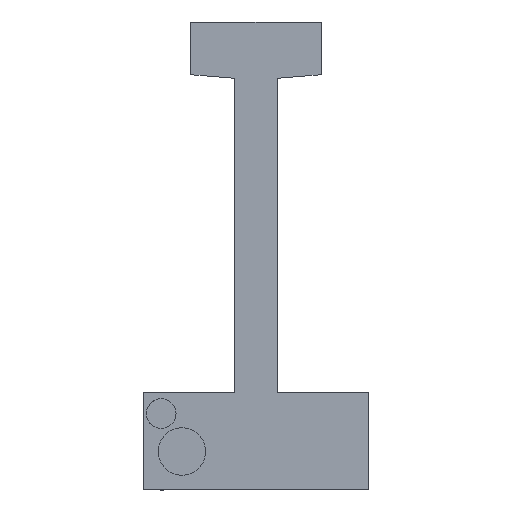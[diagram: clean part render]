
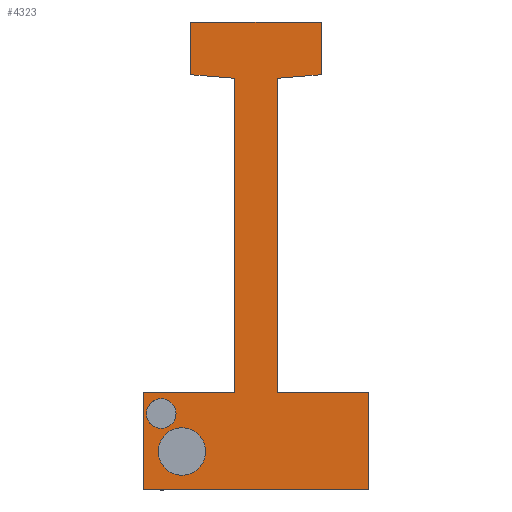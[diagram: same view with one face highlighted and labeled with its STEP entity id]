
A CAD part, front view. The second image highlights one B-rep face of the part: STEP entity #4323.
In plain terms, the highlighted planar face has unit normal (0, -1, 0).
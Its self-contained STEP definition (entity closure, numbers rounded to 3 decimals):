
#18 = CARTESIAN_POINT ( 'NONE',  ( -16., 0., -66.1 ) ) ;
#52 = ORIENTED_EDGE ( 'NONE', *, *, #5164, .F. ) ;
#102 = CARTESIAN_POINT ( 'NONE',  ( -12.5, 0., -72.5 ) ) ;
#115 = VECTOR ( 'NONE', #4824, 1000. ) ;
#155 = EDGE_CURVE ( 'NONE', #3882, #5762, #2367, .T. ) ;
#169 = VERTEX_POINT ( 'NONE', #3667 ) ;
#174 = ORIENTED_EDGE ( 'NONE', *, *, #5847, .F. ) ;
#185 = VECTOR ( 'NONE', #3556, 1000. ) ;
#249 = LINE ( 'NONE', #320, #185 ) ;
#320 = CARTESIAN_POINT ( 'NONE',  ( 11., 0., 0. ) ) ;
#324 = AXIS2_PLACEMENT_3D ( 'NONE', #4282, #1477, #4695 ) ;
#337 = CARTESIAN_POINT ( 'NONE',  ( -3.6, 0., -62.6 ) ) ;
#369 = VECTOR ( 'NONE', #4252, 1000. ) ;
#375 = LINE ( 'NONE', #908, #5505 ) ;
#474 = DIRECTION ( 'NONE',  ( 0., 0., -1. ) ) ;
#507 = DIRECTION ( 'NONE',  ( 0., 0., 1. ) ) ;
#550 = CARTESIAN_POINT ( 'NONE',  ( -19., 0., -79. ) ) ;
#592 = VECTOR ( 'NONE', #1066, 1000. ) ;
#908 = CARTESIAN_POINT ( 'NONE',  ( 19., 0., -79. ) ) ;
#1058 = EDGE_LOOP ( 'NONE', ( #2854, #52 ) ) ;
#1066 = DIRECTION ( 'NONE',  ( 0., 0., 1. ) ) ;
#1168 = CARTESIAN_POINT ( 'NONE',  ( -3.6, 0., -9.5 ) ) ;
#1352 = EDGE_LOOP ( 'NONE', ( #2964, #2522 ) ) ;
#1355 = VERTEX_POINT ( 'NONE', #2697 ) ;
#1365 = EDGE_LOOP ( 'NONE', ( #4872, #4728, #174, #2897, #5453, #4250, #2000, #3233, #5223, #5257, #2803, #3874 ) ) ;
#1367 = DIRECTION ( 'NONE',  ( -1., 0., 0. ) ) ;
#1415 = DIRECTION ( 'NONE',  ( 0., 1., 0. ) ) ;
#1477 = DIRECTION ( 'NONE',  ( 0., -1., 0. ) ) ;
#1485 = CARTESIAN_POINT ( 'NONE',  ( 11., 0., 0. ) ) ;
#1489 = VECTOR ( 'NONE', #5122, 1000. ) ;
#1531 = CARTESIAN_POINT ( 'NONE',  ( -11., 0., -8.9 ) ) ;
#1565 = VERTEX_POINT ( 'NONE', #1531 ) ;
#1576 = VERTEX_POINT ( 'NONE', #3836 ) ;
#1589 = CARTESIAN_POINT ( 'NONE',  ( -11., 0., 0. ) ) ;
#1614 = VECTOR ( 'NONE', #1813, 1000. ) ;
#1664 = CARTESIAN_POINT ( 'NONE',  ( 19., 0., -79. ) ) ;
#1666 = VECTOR ( 'NONE', #3529, 1000. ) ;
#1676 = AXIS2_PLACEMENT_3D ( 'NONE', #102, #2780, #3769 ) ;
#1735 = VECTOR ( 'NONE', #474, 1000. ) ;
#1785 = DIRECTION ( 'NONE',  ( 0., -1., 0. ) ) ;
#1813 = DIRECTION ( 'NONE',  ( 1., 0., 0. ) ) ;
#1847 = CARTESIAN_POINT ( 'NONE',  ( 0., 0., 0. ) ) ;
#1899 = FACE_BOUND ( 'NONE', #1352, .T. ) ;
#1971 = CARTESIAN_POINT ( 'NONE',  ( 11., 0., -8.9 ) ) ;
#1984 = CARTESIAN_POINT ( 'NONE',  ( -12.5, 0., -68.5 ) ) ;
#1995 = VECTOR ( 'NONE', #4211, 1000. ) ;
#2000 = ORIENTED_EDGE ( 'NONE', *, *, #5541, .F. ) ;
#2025 = EDGE_CURVE ( 'NONE', #5834, #4618, #2312, .T. ) ;
#2115 = CARTESIAN_POINT ( 'NONE',  ( -19., 0., -62.6 ) ) ;
#2133 = AXIS2_PLACEMENT_3D ( 'NONE', #3727, #2345, #3747 ) ;
#2209 = LINE ( 'NONE', #2820, #1489 ) ;
#2250 = DIRECTION ( 'NONE',  ( 0., 0., -1. ) ) ;
#2276 = CARTESIAN_POINT ( 'NONE',  ( 0., 0., 0. ) ) ;
#2302 = AXIS2_PLACEMENT_3D ( 'NONE', #1847, #1415, #507 ) ;
#2312 = LINE ( 'NONE', #2514, #115 ) ;
#2345 = DIRECTION ( 'NONE',  ( 0., -1., 0. ) ) ;
#2367 = CIRCLE ( 'NONE', #4317, 2.5 ) ;
#2371 = LINE ( 'NONE', #337, #1666 ) ;
#2392 = CARTESIAN_POINT ( 'NONE',  ( -19., 0., -62.6 ) ) ;
#2434 = EDGE_CURVE ( 'NONE', #1576, #1355, #2371, .T. ) ;
#2454 = CARTESIAN_POINT ( 'NONE',  ( 11., 0., -8.9 ) ) ;
#2487 = VERTEX_POINT ( 'NONE', #4892 ) ;
#2514 = CARTESIAN_POINT ( 'NONE',  ( 3.6, 0., -62.6 ) ) ;
#2522 = ORIENTED_EDGE ( 'NONE', *, *, #5785, .F. ) ;
#2550 = EDGE_CURVE ( 'NONE', #4058, #3838, #249, .T. ) ;
#2598 = LINE ( 'NONE', #5638, #592 ) ;
#2697 = CARTESIAN_POINT ( 'NONE',  ( -3.6, 0., -9.5 ) ) ;
#2780 = DIRECTION ( 'NONE',  ( 0., -1., 0. ) ) ;
#2781 = EDGE_CURVE ( 'NONE', #4414, #5834, #5591, .T. ) ;
#2803 = ORIENTED_EDGE ( 'NONE', *, *, #5830, .F. ) ;
#2820 = CARTESIAN_POINT ( 'NONE',  ( 19., 0., -62.6 ) ) ;
#2852 = LINE ( 'NONE', #1971, #369 ) ;
#2854 = ORIENTED_EDGE ( 'NONE', *, *, #5647, .F. ) ;
#2891 = CARTESIAN_POINT ( 'NONE',  ( -16., 0., -63.6 ) ) ;
#2897 = ORIENTED_EDGE ( 'NONE', *, *, #2434, .F. ) ;
#2911 = CARTESIAN_POINT ( 'NONE',  ( -16., 0., -68.6 ) ) ;
#2964 = ORIENTED_EDGE ( 'NONE', *, *, #155, .F. ) ;
#3076 = LINE ( 'NONE', #2392, #5068 ) ;
#3139 = FACE_OUTER_BOUND ( 'NONE', #1365, .T. ) ;
#3233 = ORIENTED_EDGE ( 'NONE', *, *, #5614, .F. ) ;
#3235 = VERTEX_POINT ( 'NONE', #1984 ) ;
#3254 = EDGE_CURVE ( 'NONE', #1565, #3955, #2598, .T. ) ;
#3358 = LINE ( 'NONE', #550, #1995 ) ;
#3529 = DIRECTION ( 'NONE',  ( 0., 0., 1. ) ) ;
#3556 = DIRECTION ( 'NONE',  ( 0., 0., -1. ) ) ;
#3667 = CARTESIAN_POINT ( 'NONE',  ( -19., 0., -79. ) ) ;
#3694 = PLANE ( 'NONE',  #2302 ) ;
#3711 = CARTESIAN_POINT ( 'NONE',  ( 3.6, 0., -9.5 ) ) ;
#3727 = CARTESIAN_POINT ( 'NONE',  ( -12.5, 0., -72.5 ) ) ;
#3747 = DIRECTION ( 'NONE',  ( 0., 0., 1. ) ) ;
#3769 = DIRECTION ( 'NONE',  ( 0., 0., 1. ) ) ;
#3836 = CARTESIAN_POINT ( 'NONE',  ( -3.6, 0., -62.6 ) ) ;
#3838 = VERTEX_POINT ( 'NONE', #2454 ) ;
#3874 = ORIENTED_EDGE ( 'NONE', *, *, #2550, .F. ) ;
#3882 = VERTEX_POINT ( 'NONE', #2911 ) ;
#3900 = CARTESIAN_POINT ( 'NONE',  ( 19., 0., -62.6 ) ) ;
#3922 = DIRECTION ( 'NONE',  ( -0.997, 0., 0.081 ) ) ;
#3955 = VERTEX_POINT ( 'NONE', #1589 ) ;
#4058 = VERTEX_POINT ( 'NONE', #1485 ) ;
#4149 = EDGE_CURVE ( 'NONE', #5041, #1576, #3076, .T. ) ;
#4162 = LINE ( 'NONE', #1168, #5293 ) ;
#4211 = DIRECTION ( 'NONE',  ( 0., 0., 1. ) ) ;
#4250 = ORIENTED_EDGE ( 'NONE', *, *, #5615, .F. ) ;
#4252 = DIRECTION ( 'NONE',  ( -0.997, 0., -0.081 ) ) ;
#4282 = CARTESIAN_POINT ( 'NONE',  ( -16., 0., -66.1 ) ) ;
#4317 = AXIS2_PLACEMENT_3D ( 'NONE', #18, #1785, #2250 ) ;
#4319 = CARTESIAN_POINT ( 'NONE',  ( 3.6, 0., -9.5 ) ) ;
#4323 = ADVANCED_FACE ( 'NONE', ( #1899, #5279, #3139 ), #3694, .F. ) ;
#4414 = VERTEX_POINT ( 'NONE', #4319 ) ;
#4618 = VERTEX_POINT ( 'NONE', #3900 ) ;
#4695 = DIRECTION ( 'NONE',  ( 0., 0., -1. ) ) ;
#4728 = ORIENTED_EDGE ( 'NONE', *, *, #3254, .F. ) ;
#4824 = DIRECTION ( 'NONE',  ( 1., 0., 0. ) ) ;
#4872 = ORIENTED_EDGE ( 'NONE', *, *, #5090, .F. ) ;
#4892 = CARTESIAN_POINT ( 'NONE',  ( -12.5, 0., -76.5 ) ) ;
#4967 = VERTEX_POINT ( 'NONE', #1664 ) ;
#5016 = CIRCLE ( 'NONE', #2133, 4. ) ;
#5041 = VERTEX_POINT ( 'NONE', #2115 ) ;
#5068 = VECTOR ( 'NONE', #5632, 1000. ) ;
#5090 = EDGE_CURVE ( 'NONE', #3955, #4058, #5353, .T. ) ;
#5122 = DIRECTION ( 'NONE',  ( 0., 0., -1. ) ) ;
#5164 = EDGE_CURVE ( 'NONE', #2487, #3235, #5416, .T. ) ;
#5223 = ORIENTED_EDGE ( 'NONE', *, *, #2025, .F. ) ;
#5257 = ORIENTED_EDGE ( 'NONE', *, *, #2781, .F. ) ;
#5262 = CARTESIAN_POINT ( 'NONE',  ( 3.6, 0., -62.6 ) ) ;
#5279 = FACE_BOUND ( 'NONE', #1058, .T. ) ;
#5293 = VECTOR ( 'NONE', #3922, 1000. ) ;
#5353 = LINE ( 'NONE', #2276, #1614 ) ;
#5416 = CIRCLE ( 'NONE', #1676, 4. ) ;
#5453 = ORIENTED_EDGE ( 'NONE', *, *, #4149, .F. ) ;
#5505 = VECTOR ( 'NONE', #1367, 1000. ) ;
#5541 = EDGE_CURVE ( 'NONE', #4967, #169, #375, .T. ) ;
#5591 = LINE ( 'NONE', #3711, #1735 ) ;
#5614 = EDGE_CURVE ( 'NONE', #4618, #4967, #2209, .T. ) ;
#5615 = EDGE_CURVE ( 'NONE', #169, #5041, #3358, .T. ) ;
#5632 = DIRECTION ( 'NONE',  ( 1., 0., 0. ) ) ;
#5638 = CARTESIAN_POINT ( 'NONE',  ( -11., 0., -8.9 ) ) ;
#5647 = EDGE_CURVE ( 'NONE', #3235, #2487, #5016, .T. ) ;
#5762 = VERTEX_POINT ( 'NONE', #2891 ) ;
#5785 = EDGE_CURVE ( 'NONE', #5762, #3882, #5786, .T. ) ;
#5786 = CIRCLE ( 'NONE', #324, 2.5 ) ;
#5830 = EDGE_CURVE ( 'NONE', #3838, #4414, #2852, .T. ) ;
#5834 = VERTEX_POINT ( 'NONE', #5262 ) ;
#5847 = EDGE_CURVE ( 'NONE', #1355, #1565, #4162, .T. ) ;
